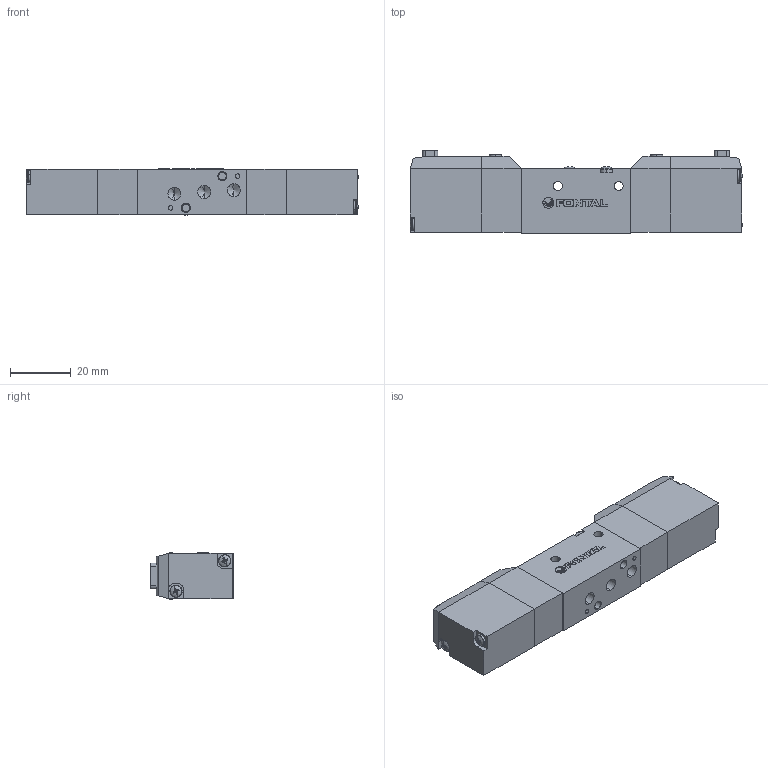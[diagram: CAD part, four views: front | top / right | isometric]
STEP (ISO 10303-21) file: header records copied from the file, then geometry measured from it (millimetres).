
FILE_DESCRIPTION (( 'STEP AP203' ), '1' );
FILE_NAME ('RCD345#-M5-#-L-#.STEP', '2016-06-14T08:57:08', ( '' ), ( '' ), 'SwSTEP 2.0', 'SolidWorks 2014', '' );
FILE_SCHEMA (( 'CONFIG_CONTROL_DESIGN' ));
Length unit declared in the file: millimetre
Products named in the file (10): ISO 7045 - M2 x 10; ISO 7045 - M2.5 x 25; PC5-4; RCS-2; RCD345#-M5-#-L-#; PC-MARK; PC5-5; PC5-6
Assembly tree (12 placements, depth 4):
  RCD345#-M5-#-L-#
    RCS-2
    (unnamed)  x2
      PC5-5
      PC5-6
      (unnamed)
        PC5-4
        ISO 7045 - M2 x 10  x2
    PC-MARK
    ISO 7045 - M2.5 x 25  x2
Bounding box: 109.14 x 27.5 x 15.4 mm (x, y, z)
Volume: 36877.8 mm3; surface area: 15080 mm2
Topology: 20 solids, 20 shells, 514 faces, 1252 edges, 775 vertices
Faces by surface type: plane 285, cylinder 109, cone 76, torus 24, sphere 12, bspline 8
Entity records: 9556 total; most frequent: CARTESIAN_POINT 1619, DIRECTION 1470, ORIENTED_EDGE 1376, EDGE_CURVE 688, AXIS2_PLACEMENT_3D 533, VERTEX_POINT 442, LINE 404, VECTOR 404
